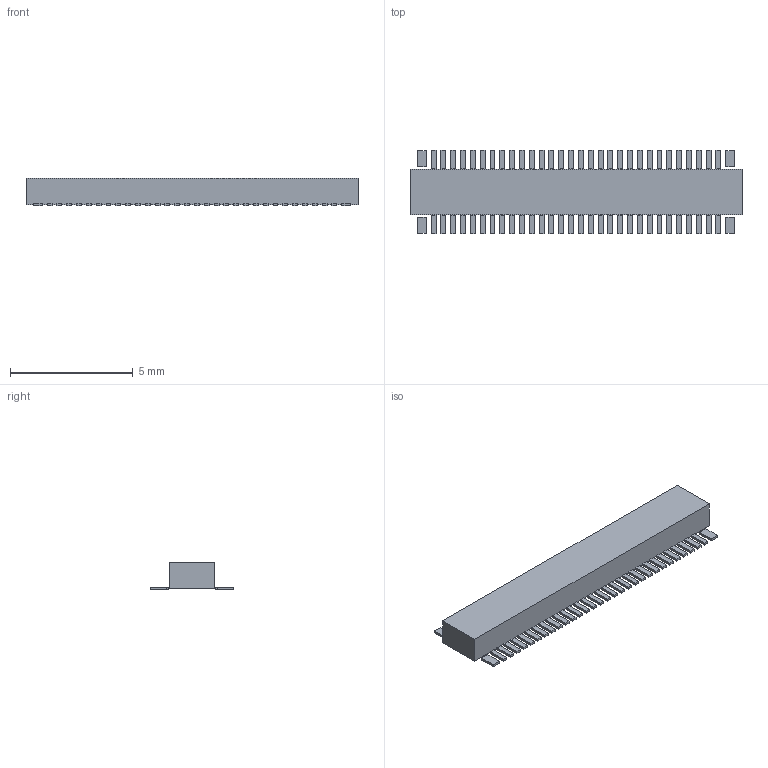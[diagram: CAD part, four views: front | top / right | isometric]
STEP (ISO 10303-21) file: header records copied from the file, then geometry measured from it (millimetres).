
FILE_DESCRIPTION(('Open CASCADE Model'),'2;1');
FILE_NAME('Open CASCADE Shape Model','2026-10-14T06:18:04',('Author'),( 'Open CASCADE'),'Open CASCADE STEP processor 7.9','Open CASCADE 7.9' ,'Unknown');
FILE_SCHEMA(('AUTOMOTIVE_DESIGN { 1 0 10303 214 1 1 1 1 }'));
Length unit declared in the file: millimetre
Products named in the file (65): Nominal simplified plug body; visual only; Preview terminal row-1 pos1; Preview terminal row1 pos1; Preview terminal row-1 pos2; Preview terminal row1 pos2; Preview terminal row-1 pos3; Preview terminal row1 pos3; Preview terminal row-1 pos4; Preview terminal row1 pos4; Preview terminal row-1 pos5; Preview terminal row1 pos5; Preview terminal row-1 pos6; Preview terminal row1 pos6; Preview terminal row-1 pos7; Preview terminal row1 pos7; Preview terminal row-1 pos8; Preview terminal row1 pos8; Preview terminal row-1 pos9; Preview terminal row1 pos9; Preview terminal row-1 pos10; Preview terminal row1 pos10; Preview terminal row-1 pos11; Preview terminal row1 pos11; Preview terminal row-1 pos12; Preview terminal row1 pos12; Preview terminal row-1 pos13; Preview terminal row1 pos13; Preview terminal row-1 pos14; Preview terminal row1 pos14; Preview terminal row-1 pos15; Preview terminal row1 pos15; Preview terminal row-1 pos16; Preview terminal row1 pos16; Preview terminal row-1 pos17; Preview terminal row1 pos17; Preview terminal row-1 pos18; Preview terminal row1 pos18; Preview terminal row-1 pos19; Preview terminal row1 pos19; Preview terminal row-1 pos20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
Bounding box: 13.52 x 3.4 x 1.14 mm (x, y, z)
Volume: 28.3 mm3; surface area: 115.6 mm2
Topology: 65 solids, 65 shells, 390 faces, 780 edges, 520 vertices
Faces by surface type: plane 390
Entity records: 21199 total; most frequent: CARTESIAN_POINT 3251, DIRECTION 3122, LINE 2340, VECTOR 2340, ORIENTED_EDGE 1560, PCURVE 1560, DEFINITIONAL_REPRESENTATION 1560, EDGE_CURVE 780
